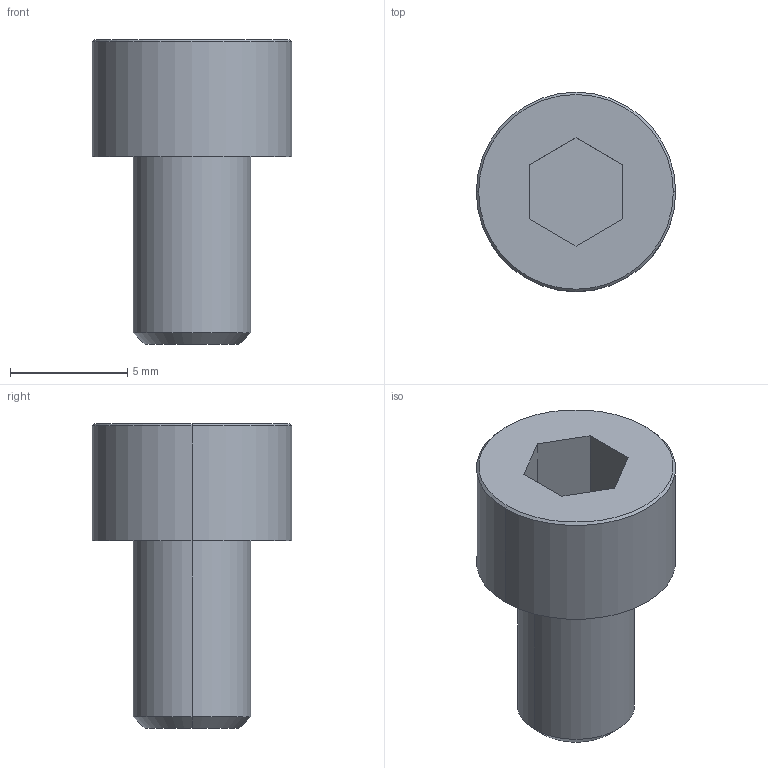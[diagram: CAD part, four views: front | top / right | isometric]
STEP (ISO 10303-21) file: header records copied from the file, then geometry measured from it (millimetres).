
FILE_DESCRIPTION (( 'STEP AP214' ), '1' );
FILE_NAME ('Cap SCREW M5 X6 MM.STEP', '2024-06-18T05:06:24', ( '' ), ( '' ), 'SwSTEP 2.0', 'SolidWorks 2023', '' );
FILE_SCHEMA (( 'AUTOMOTIVE_DESIGN' ));
Length unit declared in the file: millimetre
Products named in the file (1): Cap SCREW M5 X6 MM
Bounding box: 8.5 x 8.5 x 13 mm (x, y, z)
Volume: 397.3 mm3; surface area: 407.7 mm2
Topology: 1 solids, 1 shells, 18 faces, 38 edges, 24 vertices
Faces by surface type: plane 10, cone 4, cylinder 4
Entity records: 505 total; most frequent: DIRECTION 88, CARTESIAN_POINT 81, ORIENTED_EDGE 76, EDGE_CURVE 38, AXIS2_PLACEMENT_3D 31, VECTOR 26, LINE 26, VERTEX_POINT 24
